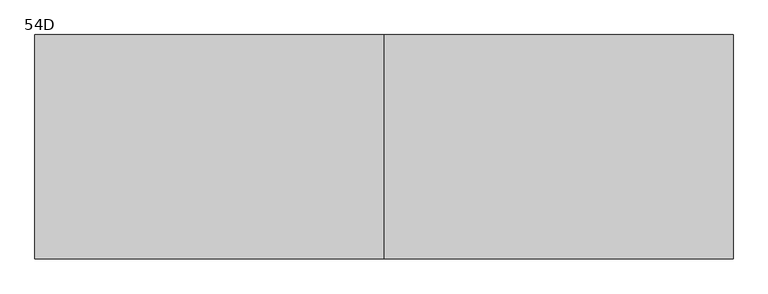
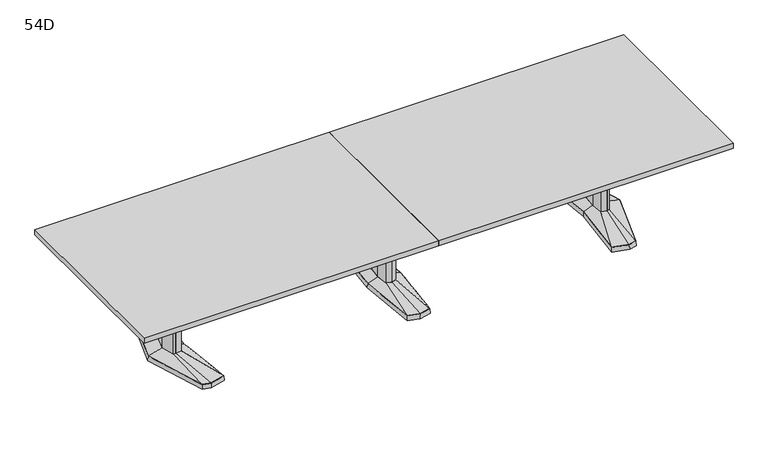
"""IFC4 building model written with IfcOpenShell, lengths in millimetres: furniture geometry, Coalesse_AM_Table_Conference_ETable2_Rectangular_14ft_AluminiumBase : 54D."""

from ifc_helpers import new_model, si_unit, frame, origin, place, context, project, spatial, polyline, outline, extrude, faceted_brep, source, transform, mapped, element, save
from ifc_brep_helpers import plane_surface, spline_surface, advanced_brep


def furniture_54d_7785af56(model_context):
    return source(origin(), model_context, "Body", "SolidModel", [
        faceted_brep([(-81.2333791, -433.8053819, 38.1), (0.0, -455.556576, 38.1), (81.2333791, -433.8053819, 38.1), (119.0564774, 0.0, 38.1), (81.2333791, 433.8053819, 38.1), (0.0, 455.556576, 38.1), (-81.2333791, 433.8053819, 38.1), (-119.0564774, 0.0, 38.1), (-82.7182795, -435.0512063, 3.175), (-120.65, 0.0, 3.175), (-82.7182795, 435.0512063, 3.175), (0.0, 457.2, 3.175), (82.7182795, 435.0512063, 3.175), (120.65, 0.0, 3.175), (82.7182795, -435.0512063, 3.175), (0.0, -457.2, 3.175), (0.0, 429.2617927, 3.175), (-77.9676806, 408.3850278, 3.175), (-74.7019821, 382.9646737, 3.175), (0.0, 402.9670094, 3.175), (74.7019821, 382.9646737, 3.175), (77.9676806, 408.3850278, 3.175), (0.0, -429.2617927, 3.175), (77.9676806, -408.3850278, 3.175), (74.7019821, -382.9646737, 3.175), (0.0, -402.9670094, 3.175), (-74.7019821, -382.9646737, 3.175), (-77.9676806, -408.3850278, 3.175), (-71.8574262, 114.6326257, 3.175), (-82.5426076, 0.0, 3.175), (-71.8574262, -114.6326257, 3.175), (0.0, -133.8761372, 3.175), (71.8574262, -114.6326257, 3.175), (82.5426076, 0.0, 3.175), (71.8574262, 114.6326257, 3.175), (0.0, 133.8761372, 3.175), (0.0, 429.2617927, 0.0), (77.9676806, 408.3850278, 0.0), (74.7019821, 382.9646737, 0.0), (0.0, 402.9670094, 0.0), (-74.7019821, 382.9646737, 0.0), (-77.9676806, 408.3850278, 0.0), (0.0, -429.2617927, 0.0), (-77.9676806, -408.3850278, 0.0), (-74.7019821, -382.9646737, 0.0), (0.0, -402.9670094, 0.0), (74.7019821, -382.9646737, 0.0), (77.9676806, -408.3850278, 0.0), (-71.8574262, 114.6326257, 0.0), (0.0, 133.8761372, 0.0), (71.8574262, 114.6326257, 0.0), (82.5426076, 0.0, 0.0), (71.8574262, -114.6326257, 0.0), (0.0, -133.8761372, 0.0), (-71.8574262, -114.6326257, 0.0), (-82.5426076, 0.0, 0.0)], [[[0, 1, 2, 3, 4, 5, 6, 7]], [[8, 9, 10, 11, 12, 13, 14, 15], [16, 17, 18, 19, 20, 21], [22, 23, 24, 25, 26, 27], [28, 29, 30, 31, 32, 33, 34, 35]], [[1, 0, 8, 15]], [[2, 1, 15, 14]], [[3, 2, 14, 13]], [[4, 3, 13, 12]], [[5, 4, 12, 11]], [[6, 5, 11, 10]], [[7, 6, 10, 9]], [[0, 7, 9, 8]], [[36, 37, 38, 39, 40, 41]], [[42, 43, 44, 45, 46, 47]], [[48, 49, 50, 51, 52, 53, 54, 55]], [[36, 41, 17, 16]], [[41, 40, 18, 17]], [[40, 39, 19, 18]], [[39, 38, 20, 19]], [[38, 37, 21, 20]], [[37, 36, 16, 21]], [[42, 47, 23, 22]], [[47, 46, 24, 23]], [[46, 45, 25, 24]], [[45, 44, 26, 25]], [[44, 43, 27, 26]], [[43, 42, 22, 27]], [[48, 55, 29, 28]], [[55, 54, 30, 29]], [[54, 53, 31, 30]], [[53, 52, 32, 31]], [[52, 51, 33, 32]], [[51, 50, 34, 33]], [[50, 49, 35, 34]], [[49, 48, 28, 35]]]),
        faceted_brep([(-36.3832834, 84.6900825, 698.5), (-44.2774487, 0.0, 698.5), (-36.3832834, -84.6900825, 698.5), (0.0, -94.4335728, 698.5), (36.3832834, -84.6900825, 698.5), (44.2774487, 0.0, 698.5), (36.3832834, 84.6900825, 698.5), (0.0, 94.4335728, 698.5), (-36.3832834, 84.6900825, 63.5), (0.0, 94.4335728, 63.5), (36.3832834, 84.6900825, 63.5), (44.2774487, 0.0, 63.5), (36.3832834, -84.6900825, 63.5), (0.0, -94.4335728, 63.5), (-36.3832834, -84.6900825, 63.5), (-44.2774487, 0.0, 63.5)], [[[0, 1, 2, 3, 4, 5, 6, 7]], [[8, 9, 10, 11, 12, 13, 14, 15]], [[1, 0, 8, 15]], [[2, 1, 15, 14]], [[3, 2, 14, 13]], [[4, 3, 13, 12]], [[5, 4, 12, 11]], [[6, 5, 11, 10]], [[7, 6, 10, 9]], [[0, 7, 9, 8]]]),
        advanced_brep(
        [(-36.3832834, 84.6900825, 63.5), (-44.2774487, 0.0, 63.5), (-36.3832834, -84.6900825, 63.5), (0.0, -94.4335728, 63.5), (36.3832834, -84.6900825, 63.5), (44.2774487, 0.0, 63.5), (36.3832834, 84.6900825, 63.5), (0.0, 94.4335728, 63.5), (-81.2333791, 433.8053819, 38.1), (0.0, 455.556576, 38.1), (81.2333791, 433.8053819, 38.1), (119.0564774, 0.0, 38.1), (81.2333791, -433.8053819, 38.1), (0.0, -455.556576, 38.1), (-81.2333791, -433.8053819, 38.1), (-119.0564774, 0.0, 38.1)],
        [
            (0, 1),
            (1, 2),
            (2, 3),
            (3, 4),
            (4, 5),
            (5, 6),
            (6, 7),
            (7, 0),
            (8, 9),
            (9, 10),
            (10, 11),
            (11, 12),
            (12, 13),
            (13, 14),
            (14, 15),
            (15, 8),
            (15, 1),
            (0, 8),
            (14, 2),
            (13, 3),
            (12, 4),
            (11, 5),
            (10, 6),
            (9, 7),
        ],
        [
            plane_surface(frame((0.0, 0.0, 63.5), z_axis=(0.0, 0.0, 1.0000000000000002), x_axis=(-0.9659615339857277, -0.25868574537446, 0.0))),
            plane_surface(frame((0.0, 0.0, 38.1), z_axis=(0.0, 0.0, -1.0000000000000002), x_axis=(-0.9659615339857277, -0.25868574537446, 0.0))),
            spline_surface(1, 1, [[(-81.2333791, 433.8053819, 38.1), (-36.3832834, 84.6900825, 63.5)], [(-119.0564774, 0.0, 38.1), (-44.2774487, 0.0, 63.5)]], [2, 2], [2, 2], [0.0, 1.0], [0.0, 1.0]),
            spline_surface(1, 1, [[(-119.0564774, 0.0, 38.1), (-44.2774487, 0.0, 63.5)], [(-81.2333791, -433.8053819, 38.1), (-36.3832834, -84.6900825, 63.5)]], [2, 2], [2, 2], [0.0, 1.0], [0.0, 1.0]),
            spline_surface(1, 1, [[(-81.2333791, -433.8053819, 38.1), (-36.3832834, -84.6900825, 63.5)], [(0.0, -455.556576, 38.1), (0.0, -94.4335728, 63.5)]], [2, 2], [2, 2], [0.0, 1.0], [0.0, 1.0]),
            spline_surface(1, 1, [[(0.0, -455.556576, 38.1), (0.0, -94.4335728, 63.5)], [(81.2333791, -433.8053819, 38.1), (36.3832834, -84.6900825, 63.5)]], [2, 2], [2, 2], [0.0, 1.0], [0.0, 1.0]),
            spline_surface(1, 1, [[(81.2333791, -433.8053819, 38.1), (36.3832834, -84.6900825, 63.5)], [(119.0564774, 0.0, 38.1), (44.2774487, 0.0, 63.5)]], [2, 2], [2, 2], [0.0, 1.0], [0.0, 1.0]),
            spline_surface(1, 1, [[(119.0564774, 0.0, 38.1), (44.2774487, 0.0, 63.5)], [(81.2333791, 433.8053819, 38.1), (36.3832834, 84.6900825, 63.5)]], [2, 2], [2, 2], [0.0, 1.0], [0.0, 1.0]),
            spline_surface(1, 1, [[(81.2333791, 433.8053819, 38.1), (36.3832834, 84.6900825, 63.5)], [(0.0, 455.556576, 38.1), (0.0, 94.4335728, 63.5)]], [2, 2], [2, 2], [0.0, 1.0], [0.0, 1.0]),
            spline_surface(1, 1, [[(0.0, 455.556576, 38.1), (0.0, 94.4335728, 63.5)], [(-81.2333791, 433.8053819, 38.1), (-36.3832834, 84.6900825, 63.5)]], [2, 2], [2, 2], [0.0, 1.0], [0.0, 1.0]),
        ],
        [
            (0, [[1, 2, 3, 4, 5, 6, 7, 8]]),
            (1, [[9, 10, 11, 12, 13, 14, 15, 16]]),
            (2, [[-16, 17, -1, 18]]),
            (3, [[-15, 19, -2, -17]]),
            (4, [[-14, 20, -3, -19]]),
            (5, [[-13, 21, -4, -20]]),
            (6, [[-12, 22, -5, -21]]),
            (7, [[-11, 23, -6, -22]]),
            (8, [[-10, 24, -7, -23]]),
            (9, [[-9, -18, -8, -24]]),
        ],
    ),
        faceted_brep([(1515.4306835, 455.5848221, 38.1), (1405.8531277, 426.2263816, 38.1), (1447.0163717, 0.0, 38.1), (1405.8531277, -426.2263816, 38.1), (1515.4306835, -455.5848221, 38.1), (1571.5570396, -440.5478297, 38.1), (1708.8684269, 0.0, 38.1), (1571.5570396, 440.5478297, 38.1), (1515.4306754, 457.2283104, 3.175), (1572.8124472, 441.8549756, 3.175), (1710.53125, 0.0, 3.175), (1572.8124472, -441.8549756, 3.175), (1515.4306754, -457.2283104, 3.175), (1404.14375, -427.4118891, 3.175), (1445.4214856, 0.0, 3.175), (1404.14375, 427.4118891, 3.175), (1519.020115, 428.3273875, 3.175), (1413.9718228, 402.1057253, 3.175), (1422.090518, 377.985069, 3.175), (1522.6095466, 401.0699529, 3.175), (1573.1691725, 387.524361, 3.175), (1572.3631061, 414.0360954, 3.175), (1519.020115, -428.3273875, 3.175), (1572.3631061, -414.0360954, 3.175), (1573.1691725, -387.524361, 3.175), (1522.6095466, -401.0699529, 3.175), (1422.090518, -377.985069, 3.175), (1413.9718228, -402.1057253, 3.175), (1645.6153621, 0.0, 3.175), (1613.3459611, 120.4193755, 3.175), (1564.6987222, 133.471665, 3.175), (1484.8180526, 119.4176561, 3.175), (1473.6868466, 0.0, 3.175), (1484.8180526, -119.4176561, 3.175), (1564.6987222, -133.471665, 3.175), (1613.3459611, -120.4193755, 3.175), (1519.020115, 428.3273875, 0.0), (1572.3631061, 414.0360954, 0.0), (1573.1691725, 387.524361, 0.0), (1522.6095466, 401.0699529, 0.0), (1422.090518, 377.985069, 0.0), (1413.9718228, 402.1057253, 0.0), (1519.020115, -428.3273875, 0.0), (1413.9718228, -402.1057253, 0.0), (1422.090518, -377.985069, 0.0), (1522.6095466, -401.0699529, 0.0), (1573.1691725, -387.524361, 0.0), (1572.3631061, -414.0360954, 0.0), (1645.6153621, 0.0, 0.0), (1613.3459611, -120.4193755, 0.0), (1564.6987222, -133.471665, 0.0), (1484.8180526, -119.4176561, 0.0), (1473.6868466, 0.0, 0.0), (1484.8180526, 119.4176561, 0.0), (1564.6987222, 133.471665, 0.0), (1613.3459611, 120.4193755, 0.0)], [[[0, 1, 2, 3, 4, 5, 6, 7]], [[8, 9, 10, 11, 12, 13, 14, 15], [16, 17, 18, 19, 20, 21], [22, 23, 24, 25, 26, 27], [28, 29, 30, 31, 32, 33, 34, 35]], [[7, 9, 8, 0]], [[6, 10, 9, 7]], [[5, 11, 10, 6]], [[4, 12, 11, 5]], [[3, 13, 12, 4]], [[2, 14, 13, 3]], [[1, 15, 14, 2]], [[0, 8, 15, 1]], [[36, 37, 38, 39, 40, 41]], [[42, 43, 44, 45, 46, 47]], [[48, 49, 50, 51, 52, 53, 54, 55]], [[36, 16, 21, 37]], [[37, 21, 20, 38]], [[38, 20, 19, 39]], [[39, 19, 18, 40]], [[40, 18, 17, 41]], [[41, 17, 16, 36]], [[42, 22, 27, 43]], [[43, 27, 26, 44]], [[44, 26, 25, 45]], [[45, 25, 24, 46]], [[46, 24, 23, 47]], [[47, 23, 22, 42]], [[48, 28, 35, 49]], [[49, 35, 34, 50]], [[50, 34, 33, 51]], [[51, 33, 32, 52]], [[52, 32, 31, 53]], [[53, 31, 30, 54]], [[54, 30, 29, 55]], [[55, 29, 28, 48]]]),
        faceted_brep([(1606.1710836, 0.0, 698.5), (1582.2358546, 89.3188359, 698.5), (1565.3824984, 93.8406728, 698.5), (1562.9826511, 94.4845635, 698.5), (1520.055146, 86.9320037, 698.5), (1511.9520056, 0.0, 698.5), (1520.055146, -86.9320037, 698.5), (1562.9826511, -94.4845635, 698.5), (1565.3824984, -93.8406728, 698.5), (1582.2358546, -89.3188359, 698.5), (1606.1710836, 0.0, 63.5), (1582.2358546, -89.3188359, 63.5), (1565.3824984, -93.8406728, 63.5), (1562.9826511, -94.4845635, 63.5), (1520.055146, -86.9320037, 63.5), (1511.9520056, 0.0, 63.5), (1520.055146, 86.9320037, 63.5), (1562.9826511, 94.4845635, 63.5), (1565.3824984, 93.8406728, 63.5), (1582.2358546, 89.3188359, 63.5)], [[[0, 1, 2, 3, 4, 5, 6, 7, 8, 9]], [[10, 11, 12, 13, 14, 15, 16, 17, 18, 19]], [[9, 11, 10, 0]], [[8, 12, 11, 9]], [[7, 13, 12, 8]], [[6, 14, 13, 7]], [[5, 15, 14, 6]], [[4, 16, 15, 5]], [[3, 17, 16, 4]], [[2, 18, 17, 3]], [[1, 19, 18, 2]], [[0, 10, 19, 1]]]),
        advanced_brep(
        [(1562.9826511, 94.4845635, 63.5), (1520.055146, 86.9320037, 63.5), (1511.9520056, 0.0, 63.5), (1520.055146, -86.9320037, 63.5), (1562.9826511, -94.4845635, 63.5), (1582.2358546, -89.3188359, 63.5), (1606.1710836, 0.0, 63.5), (1582.2358546, 89.3188359, 63.5), (1515.4306835, 455.5848221, 38.1), (1571.5570396, 440.5478297, 38.1), (1708.8684269, 0.0, 38.1), (1571.5570396, -440.5478297, 38.1), (1515.4306835, -455.5848221, 38.1), (1405.8531277, -426.2263816, 38.1), (1447.0163717, 0.0, 38.1), (1405.8531277, 426.2263816, 38.1)],
        [
            (0, 1),
            (1, 2),
            (2, 3),
            (3, 4),
            (4, 5),
            (5, 6),
            (6, 7),
            (7, 0),
            (8, 9),
            (9, 10),
            (10, 11),
            (11, 12),
            (12, 13),
            (13, 14),
            (14, 15),
            (15, 8),
            (8, 0),
            (7, 9),
            (6, 10),
            (5, 11),
            (4, 12),
            (3, 13),
            (2, 14),
            (1, 15),
        ],
        [
            plane_surface(frame((1556.0837991, 0.0, 63.5), z_axis=(0.0, 0.0, 1.0), x_axis=(-0.25884244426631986, -0.9659195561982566, 0.0))),
            plane_surface(frame((1517.6958125, 0.0, 38.1), z_axis=(0.0, 0.0, -1.0), x_axis=(-0.25884244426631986, -0.9659195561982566, 0.0))),
            spline_surface(1, 1, [[(1515.4306835, 455.5848221, 38.1), (1571.5570396, 440.5478297, 38.1)], [(1562.9826511, 94.4845635, 63.5), (1582.2358546, 89.3188359, 63.5)]], [2, 2], [2, 2], [0.0, 1.0], [0.0, 1.0]),
            spline_surface(1, 1, [[(1571.5570396, 440.5478297, 38.1), (1708.8684269, 0.0, 38.1)], [(1582.2358546, 89.3188359, 63.5), (1606.1710836, 0.0, 63.5)]], [2, 2], [2, 2], [0.0, 1.0], [0.0, 1.0]),
            spline_surface(1, 1, [[(1708.8684269, 0.0, 38.1), (1571.5570396, -440.5478297, 38.1)], [(1606.1710836, 0.0, 63.5), (1582.2358546, -89.3188359, 63.5)]], [2, 2], [2, 2], [0.0, 1.0], [0.0, 1.0]),
            spline_surface(1, 1, [[(1571.5570396, -440.5478297, 38.1), (1515.4306835, -455.5848221, 38.1)], [(1582.2358546, -89.3188359, 63.5), (1562.9826511, -94.4845635, 63.5)]], [2, 2], [2, 2], [0.0, 1.0], [0.0, 1.0]),
            spline_surface(1, 1, [[(1515.4306835, -455.5848221, 38.1), (1405.8531277, -426.2263816, 38.1)], [(1562.9826511, -94.4845635, 63.5), (1520.055146, -86.9320037, 63.5)]], [2, 2], [2, 2], [0.0, 1.0], [0.0, 1.0]),
            spline_surface(1, 1, [[(1405.8531277, -426.2263816, 38.1), (1447.0163717, 0.0, 38.1)], [(1520.055146, -86.9320037, 63.5), (1511.9520056, 0.0, 63.5)]], [2, 2], [2, 2], [0.0, 1.0], [0.0, 1.0]),
            spline_surface(1, 1, [[(1447.0163717, 0.0, 38.1), (1405.8531277, 426.2263816, 38.1)], [(1511.9520056, 0.0, 63.5), (1520.055146, 86.9320037, 63.5)]], [2, 2], [2, 2], [0.0, 1.0], [0.0, 1.0]),
            spline_surface(1, 1, [[(1405.8531277, 426.2263816, 38.1), (1515.4306835, 455.5848221, 38.1)], [(1520.055146, 86.9320037, 63.5), (1562.9826511, 94.4845635, 63.5)]], [2, 2], [2, 2], [0.0, 1.0], [0.0, 1.0]),
        ],
        [
            (0, [[1, 2, 3, 4, 5, 6, 7, 8]]),
            (1, [[9, 10, 11, 12, 13, 14, 15, 16]]),
            (2, [[17, -8, 18, -9]]),
            (3, [[-18, -7, 19, -10]]),
            (4, [[-19, -6, 20, -11]]),
            (5, [[-20, -5, 21, -12]]),
            (6, [[-21, -4, 22, -13]]),
            (7, [[-22, -3, 23, -14]]),
            (8, [[-23, -2, 24, -15]]),
            (9, [[-24, -1, -17, -16]]),
        ],
    ),
        faceted_brep([(-1515.4306835, 455.5848221, 38.1), (-1571.5570396, 440.5478297, 38.1), (-1708.8684269, 0.0, 38.1), (-1571.5570396, -440.5478297, 38.1), (-1515.4306835, -455.5848221, 38.1), (-1405.8531277, -426.2263816, 38.1), (-1447.0163717, 0.0, 38.1), (-1405.8531277, 426.2263816, 38.1), (-1515.4306754, 457.2283104, 3.175), (-1404.14375, 427.4118891, 3.175), (-1445.4214856, 0.0, 3.175), (-1404.14375, -427.4118891, 3.175), (-1515.4306754, -457.2283104, 3.175), (-1572.8124472, -441.8549756, 3.175), (-1710.53125, 0.0, 3.175), (-1572.8124472, 441.8549756, 3.175), (-1519.020115, 428.3273875, 3.175), (-1572.3631061, 414.0360954, 3.175), (-1573.1691725, 387.524361, 3.175), (-1522.6095466, 401.0699529, 3.175), (-1422.090518, 377.985069, 3.175), (-1413.9718228, 402.1057253, 3.175), (-1519.020115, -428.3273875, 3.175), (-1413.9718228, -402.1057253, 3.175), (-1422.090518, -377.985069, 3.175), (-1522.6095466, -401.0699529, 3.175), (-1573.1691725, -387.524361, 3.175), (-1572.3631061, -414.0360954, 3.175), (-1645.6153621, 0.0, 3.175), (-1613.3459611, -120.4193755, 3.175), (-1564.6987222, -133.471665, 3.175), (-1484.8180526, -119.4176561, 3.175), (-1473.6868466, 0.0, 3.175), (-1484.8180526, 119.4176561, 3.175), (-1564.6987222, 133.471665, 3.175), (-1613.3459611, 120.4193755, 3.175), (-1519.020115, 428.3273875, 0.0), (-1413.9718228, 402.1057253, 0.0), (-1422.090518, 377.985069, 0.0), (-1522.6095466, 401.0699529, 0.0), (-1573.1691725, 387.524361, 0.0), (-1572.3631061, 414.0360954, 0.0), (-1519.020115, -428.3273875, 0.0), (-1572.3631061, -414.0360954, 0.0), (-1573.1691725, -387.524361, 0.0), (-1522.6095466, -401.0699529, 0.0), (-1422.090518, -377.985069, 0.0), (-1413.9718228, -402.1057253, 0.0), (-1645.6153621, 0.0, 0.0), (-1613.3459611, 120.4193755, 0.0), (-1564.6987222, 133.471665, 0.0), (-1484.8180526, 119.4176561, 0.0), (-1473.6868466, 0.0, 0.0), (-1484.8180526, -119.4176561, 0.0), (-1564.6987222, -133.471665, 0.0), (-1613.3459611, -120.4193755, 0.0)], [[[0, 1, 2, 3, 4, 5, 6, 7]], [[8, 9, 10, 11, 12, 13, 14, 15], [16, 17, 18, 19, 20, 21], [22, 23, 24, 25, 26, 27], [28, 29, 30, 31, 32, 33, 34, 35]], [[1, 0, 8, 15]], [[2, 1, 15, 14]], [[3, 2, 14, 13]], [[4, 3, 13, 12]], [[5, 4, 12, 11]], [[6, 5, 11, 10]], [[7, 6, 10, 9]], [[0, 7, 9, 8]], [[36, 37, 38, 39, 40, 41]], [[42, 43, 44, 45, 46, 47]], [[48, 49, 50, 51, 52, 53, 54, 55]], [[36, 41, 17, 16]], [[41, 40, 18, 17]], [[40, 39, 19, 18]], [[39, 38, 20, 19]], [[38, 37, 21, 20]], [[37, 36, 16, 21]], [[42, 47, 23, 22]], [[47, 46, 24, 23]], [[46, 45, 25, 24]], [[45, 44, 26, 25]], [[44, 43, 27, 26]], [[43, 42, 22, 27]], [[48, 55, 29, 28]], [[55, 54, 30, 29]], [[54, 53, 31, 30]], [[53, 52, 32, 31]], [[52, 51, 33, 32]], [[51, 50, 34, 33]], [[50, 49, 35, 34]], [[49, 48, 28, 35]]]),
        faceted_brep([(-1606.1710836, 0.0, 698.5), (-1582.2358546, -89.3188359, 698.5), (-1565.3824984, -93.8406728, 698.5), (-1562.9826511, -94.4845635, 698.5), (-1520.055146, -86.9320037, 698.5), (-1511.9520056, 0.0, 698.5), (-1520.055146, 86.9320037, 698.5), (-1562.9826511, 94.4845635, 698.5), (-1565.3824984, 93.8406728, 698.5), (-1582.2358546, 89.3188359, 698.5), (-1606.1710836, 0.0, 63.5), (-1582.2358546, 89.3188359, 63.5), (-1565.3824984, 93.8406728, 63.5), (-1562.9826511, 94.4845635, 63.5), (-1520.055146, 86.9320037, 63.5), (-1511.9520056, 0.0, 63.5), (-1520.055146, -86.9320037, 63.5), (-1562.9826511, -94.4845635, 63.5), (-1565.3824984, -93.8406728, 63.5), (-1582.2358546, -89.3188359, 63.5)], [[[0, 1, 2, 3, 4, 5, 6, 7, 8, 9]], [[10, 11, 12, 13, 14, 15, 16, 17, 18, 19]], [[1, 0, 10, 19]], [[2, 1, 19, 18]], [[3, 2, 18, 17]], [[4, 3, 17, 16]], [[5, 4, 16, 15]], [[6, 5, 15, 14]], [[7, 6, 14, 13]], [[8, 7, 13, 12]], [[9, 8, 12, 11]], [[0, 9, 11, 10]]]),
        advanced_brep(
        [(-1562.9826511, 94.4845635, 63.5), (-1582.2358546, 89.3188359, 63.5), (-1606.1710836, 0.0, 63.5), (-1582.2358546, -89.3188359, 63.5), (-1562.9826511, -94.4845635, 63.5), (-1520.055146, -86.9320037, 63.5), (-1511.9520056, 0.0, 63.5), (-1520.055146, 86.9320037, 63.5), (-1515.4306835, 455.5848221, 38.1), (-1405.8531277, 426.2263816, 38.1), (-1447.0163717, 0.0, 38.1), (-1405.8531277, -426.2263816, 38.1), (-1515.4306835, -455.5848221, 38.1), (-1571.5570396, -440.5478297, 38.1), (-1708.8684269, 0.0, 38.1), (-1571.5570396, 440.5478297, 38.1)],
        [
            (0, 1),
            (1, 2),
            (2, 3),
            (3, 4),
            (4, 5),
            (5, 6),
            (6, 7),
            (7, 0),
            (8, 9),
            (9, 10),
            (10, 11),
            (11, 12),
            (12, 13),
            (13, 14),
            (14, 15),
            (15, 8),
            (15, 1),
            (0, 8),
            (14, 2),
            (13, 3),
            (12, 4),
            (11, 5),
            (10, 6),
            (9, 7),
        ],
        [
            plane_surface(frame((-1556.0837991, 0.0, 63.5), z_axis=(0.0, 0.0, 1.0), x_axis=(0.25884244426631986, -0.9659195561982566, 0.0))),
            plane_surface(frame((-1517.6958125, 0.0, 38.1), z_axis=(0.0, 0.0, -1.0), x_axis=(0.25884244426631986, -0.9659195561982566, 0.0))),
            spline_surface(1, 1, [[(-1515.4306835, 455.5848221, 38.1), (-1562.9826511, 94.4845635, 63.5)], [(-1571.5570396, 440.5478297, 38.1), (-1582.2358546, 89.3188359, 63.5)]], [2, 2], [2, 2], [0.0, 1.0], [0.0, 1.0]),
            spline_surface(1, 1, [[(-1571.5570396, 440.5478297, 38.1), (-1582.2358546, 89.3188359, 63.5)], [(-1708.8684269, 0.0, 38.1), (-1606.1710836, 0.0, 63.5)]], [2, 2], [2, 2], [0.0, 1.0], [0.0, 1.0]),
            spline_surface(1, 1, [[(-1708.8684269, 0.0, 38.1), (-1606.1710836, 0.0, 63.5)], [(-1571.5570396, -440.5478297, 38.1), (-1582.2358546, -89.3188359, 63.5)]], [2, 2], [2, 2], [0.0, 1.0], [0.0, 1.0]),
            spline_surface(1, 1, [[(-1571.5570396, -440.5478297, 38.1), (-1582.2358546, -89.3188359, 63.5)], [(-1515.4306835, -455.5848221, 38.1), (-1562.9826511, -94.4845635, 63.5)]], [2, 2], [2, 2], [0.0, 1.0], [0.0, 1.0]),
            spline_surface(1, 1, [[(-1515.4306835, -455.5848221, 38.1), (-1562.9826511, -94.4845635, 63.5)], [(-1405.8531277, -426.2263816, 38.1), (-1520.055146, -86.9320037, 63.5)]], [2, 2], [2, 2], [0.0, 1.0], [0.0, 1.0]),
            spline_surface(1, 1, [[(-1405.8531277, -426.2263816, 38.1), (-1520.055146, -86.9320037, 63.5)], [(-1447.0163717, 0.0, 38.1), (-1511.9520056, 0.0, 63.5)]], [2, 2], [2, 2], [0.0, 1.0], [0.0, 1.0]),
            spline_surface(1, 1, [[(-1447.0163717, 0.0, 38.1), (-1511.9520056, 0.0, 63.5)], [(-1405.8531277, 426.2263816, 38.1), (-1520.055146, 86.9320037, 63.5)]], [2, 2], [2, 2], [0.0, 1.0], [0.0, 1.0]),
            spline_surface(1, 1, [[(-1405.8531277, 426.2263816, 38.1), (-1520.055146, 86.9320037, 63.5)], [(-1515.4306835, 455.5848221, 38.1), (-1562.9826511, 94.4845635, 63.5)]], [2, 2], [2, 2], [0.0, 1.0], [0.0, 1.0]),
        ],
        [
            (0, [[1, 2, 3, 4, 5, 6, 7, 8]]),
            (1, [[9, 10, 11, 12, 13, 14, 15, 16]]),
            (2, [[-16, 17, -1, 18]]),
            (3, [[-15, 19, -2, -17]]),
            (4, [[-14, 20, -3, -19]]),
            (5, [[-13, 21, -4, -20]]),
            (6, [[-12, 22, -5, -21]]),
            (7, [[-11, 23, -6, -22]]),
            (8, [[-10, 24, -7, -23]]),
            (9, [[-9, -18, -8, -24]]),
        ],
    ),
        extrude(outline(polyline([(96.8375, 698.5), (103.1875, 698.5), (103.1875, 476.25), (-103.1875, 476.25), (-103.1875, 698.5), (-96.8375, 698.5), (-96.8375, 482.6), (96.8375, 482.6), (96.8375, 698.5)])), frame((44.2774487, 0.0, 0.0), z_axis=(1.0, 0.0, 0.0), x_axis=(0.0, 1.0, 0.0)), (0.0, 0.0, 1.0), 1467.8163013),
        extrude(outline(polyline([(2133.6, 685.8), (2133.6, -685.8), (0.0, -685.8), (0.0, 685.8), (2133.6, 685.8)])), frame((0.0, 0.0, 698.5), z_axis=(0.0, 0.0, 1.0), x_axis=(1.0, 0.0, 0.0)), (0.0, 0.0, 1.0), 38.1),
        extrude(outline(polyline([(0.0, 685.8), (0.0, -685.8), (-2133.6, -685.8), (-2133.6, 685.8), (0.0, 685.8)])), frame((0.0, 0.0, 698.5), z_axis=(0.0, 0.0, 1.0), x_axis=(1.0, 0.0, 0.0)), (0.0, 0.0, 1.0), 38.1),
        extrude(outline(polyline([(96.8375, 698.5), (103.1875, 698.5), (103.1875, 476.25), (-103.1875, 476.25), (-103.1875, 698.5), (-96.8375, 698.5), (-96.8375, 482.6), (96.8375, 482.6), (96.8375, 698.5)])), frame((-1512.09375, 0.0, 0.0), z_axis=(1.0, 0.0, 0.0), x_axis=(0.0, 1.0, 0.0)), (0.0, 0.0, 1.0), 1467.8163013),
    ])


if __name__ == "__main__":
    model = new_model("IFC4")
    model_context = context("Model", 3, world=origin())
    ifc_project = project(units=[si_unit("LENGTHUNIT", "METRE", prefix="MILLI")], contexts=[model_context])
    site = spatial("IfcSite", under=ifc_project)
    building = spatial("IfcBuilding", under=site)
    placement = place(None, origin())
    furniture_54d_shape = furniture_54d_7785af56(model_context)
    element("IfcFurniture", 1, ObjectType="Coalesse_AM_Table_Conference_ETable2_Rectangular_14ft_AluminiumBase : 54D", at=placement, inside=building, context=model_context, shape_type="MappedRepresentation", body=[
        mapped(furniture_54d_shape, transform((0.0, 0.0, 0.0), x_axis=(1.0, 0.0, 0.0), y_axis=(0.0, 1.0, 0.0), z_axis=(0.0, 0.0, 1.0))),
    ])
    save(model, "model.ifc")
